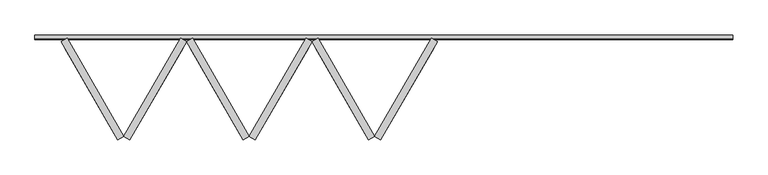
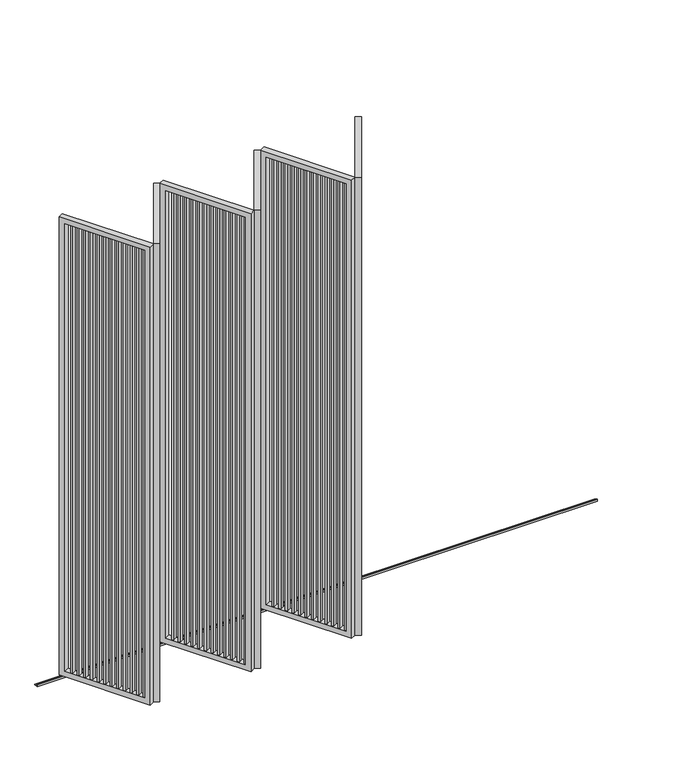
"""IFC4 building model written with IfcOpenShell, lengths in millimetres: proxy geometry, Renson_Amani_Loggia_Linea_Folding : Renson_Amani_Loggia_Linea_Folding."""

from ifc_helpers import new_model, si_unit, frame, origin, place, context, project, spatial, polyline, outline, extrude, source, transform, mapped, element, save


def generic_models_9688aaa0(model_context):
    return source(origin(), model_context, "Body", "SweptSolid", [
        extrude(outline(polyline([(2107.7211432, 547.0745344), (2133.7019053, 532.0745344), (2126.2019053, 519.0841534), (2100.2211432, 534.0841534), (2107.7211432, 547.0745344)])), frame((0.0, 0.0, 85.0), z_axis=(0.0, 0.0, 1.0), x_axis=(1.0, 0.0, 0.0)), (0.0, 0.0, 1.0), 3375.0),
        extrude(outline(polyline([(2084.2211432, 506.3713404), (2110.2019053, 491.3713404), (2102.7019053, 478.3809594), (2076.7211432, 493.3809594), (2084.2211432, 506.3713404)])), frame((0.0, 0.0, 85.0), z_axis=(0.0, 0.0, 1.0), x_axis=(1.0, 0.0, 0.0)), (0.0, 0.0, 1.0), 3375.0),
        extrude(outline(polyline([(2060.7211432, 465.6681465), (2086.7019053, 450.6681465), (2079.2019053, 437.6777654), (2053.2211432, 452.6777654), (2060.7211432, 465.6681465)])), frame((0.0, 0.0, 85.0), z_axis=(0.0, 0.0, 1.0), x_axis=(1.0, 0.0, 0.0)), (0.0, 0.0, 1.0), 3375.0),
        extrude(outline(polyline([(2037.2211432, 424.9649525), (2063.2019053, 409.9649525), (2055.7019053, 396.9745714), (2029.7211432, 411.9745714), (2037.2211432, 424.9649525)])), frame((0.0, 0.0, 85.0), z_axis=(0.0, 0.0, 1.0), x_axis=(1.0, 0.0, 0.0)), (0.0, 0.0, 1.0), 3375.0),
        extrude(outline(polyline([(2013.7211432, 384.2617585), (2039.7019053, 369.2617585), (2032.2019053, 356.2713774), (2006.2211432, 371.2713774), (2013.7211432, 384.2617585)])), frame((0.0, 0.0, 85.0), z_axis=(0.0, 0.0, 1.0), x_axis=(1.0, 0.0, 0.0)), (0.0, 0.0, 1.0), 3375.0),
        extrude(outline(polyline([(1990.2211432, 343.5585645), (2016.2019053, 328.5585645), (2008.7019053, 315.5681835), (1982.7211432, 330.5681835), (1990.2211432, 343.5585645)])), frame((0.0, 0.0, 85.0), z_axis=(0.0, 0.0, 1.0), x_axis=(1.0, 0.0, 0.0)), (0.0, 0.0, 1.0), 3375.0),
        extrude(outline(polyline([(1966.7211432, 302.8553705), (1992.7019053, 287.8553705), (1985.2019053, 274.8649895), (1959.2211432, 289.8649895), (1966.7211432, 302.8553705)])), frame((0.0, 0.0, 85.0), z_axis=(0.0, 0.0, 1.0), x_axis=(1.0, 0.0, 0.0)), (0.0, 0.0, 1.0), 3375.0),
        extrude(outline(polyline([(1943.2211432, 262.1521766), (1969.2019053, 247.1521766), (1961.7019053, 234.1617955), (1935.7211432, 249.1617955), (1943.2211432, 262.1521766)])), frame((0.0, 0.0, 85.0), z_axis=(0.0, 0.0, 1.0), x_axis=(1.0, 0.0, 0.0)), (0.0, 0.0, 1.0), 3375.0),
        extrude(outline(polyline([(1919.7211432, 221.4489826), (1945.7019053, 206.4489826), (1938.2019053, 193.4586015), (1912.2211432, 208.4586015), (1919.7211432, 221.4489826)])), frame((0.0, 0.0, 85.0), z_axis=(0.0, 0.0, 1.0), x_axis=(1.0, 0.0, 0.0)), (0.0, 0.0, 1.0), 3375.0),
        extrude(outline(polyline([(1896.2211432, 180.7457886), (1922.2019053, 165.7457886), (1914.7019053, 152.7554076), (1888.7211432, 167.7554076), (1896.2211432, 180.7457886)])), frame((0.0, 0.0, 85.0), z_axis=(0.0, 0.0, 1.0), x_axis=(1.0, 0.0, 0.0)), (0.0, 0.0, 1.0), 3375.0),
        extrude(outline(polyline([(1872.7211432, 140.0425946), (1898.7019053, 125.0425946), (1891.2019053, 112.0522136), (1865.2211432, 127.0522136), (1872.7211432, 140.0425946)])), frame((0.0, 0.0, 85.0), z_axis=(0.0, 0.0, 1.0), x_axis=(1.0, 0.0, 0.0)), (0.0, 0.0, 1.0), 3375.0),
        extrude(outline(polyline([(1849.2211432, 99.3394007), (1875.2019053, 84.3394007), (1867.7019053, 71.3490196), (1841.7211432, 86.3490196), (1849.2211432, 99.3394007)])), frame((0.0, 0.0, 85.0), z_axis=(0.0, 0.0, 1.0), x_axis=(1.0, 0.0, 0.0)), (0.0, 0.0, 1.0), 3375.0),
        extrude(outline(polyline([(3415.0, -40.0), (-40.0, -40.0), (-40.0, 610.0), (3415.0, 610.0), (3415.0, -40.0)]), holes=[polyline([(3375.0, 570.0), (0.0, 570.0), (0.0, 0.0), (3375.0, 0.0), (3375.0, 570.0)])]), frame((1852.2820323, 34.6410162, 85.0), z_axis=(-0.8660254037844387, 0.49999999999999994, 0.0), x_axis=(0.0, 0.0, 1.0)), (0.0, 0.0, 1.0), 40.0),
        extrude(outline(polyline([(1774.3429214, 50.841978), (1748.3621593, 35.841978), (1740.8621593, 48.8323591), (1766.8429214, 63.8323591), (1774.3429214, 50.841978)])), frame((0.0, 0.0, 85.0), z_axis=(0.0, 0.0, 1.0), x_axis=(1.0, 0.0, 0.0)), (0.0, 0.0, 1.0), 3375.0),
        extrude(outline(polyline([(1750.8429214, 91.545172), (1724.8621593, 76.545172), (1717.3621593, 89.5355531), (1743.3429214, 104.5355531), (1750.8429214, 91.545172)])), frame((0.0, 0.0, 85.0), z_axis=(0.0, 0.0, 1.0), x_axis=(1.0, 0.0, 0.0)), (0.0, 0.0, 1.0), 3375.0),
        extrude(outline(polyline([(1727.3429214, 132.248366), (1701.3621593, 117.248366), (1693.8621593, 130.2387471), (1719.8429214, 145.2387471), (1727.3429214, 132.248366)])), frame((0.0, 0.0, 85.0), z_axis=(0.0, 0.0, 1.0), x_axis=(1.0, 0.0, 0.0)), (0.0, 0.0, 1.0), 3375.0),
        extrude(outline(polyline([(1703.8429214, 172.95156), (1677.8621593, 157.95156), (1670.3621593, 170.941941), (1696.3429214, 185.941941), (1703.8429214, 172.95156)])), frame((0.0, 0.0, 85.0), z_axis=(0.0, 0.0, 1.0), x_axis=(1.0, 0.0, 0.0)), (0.0, 0.0, 1.0), 3375.0),
        extrude(outline(polyline([(1680.3429214, 213.654754), (1654.3621593, 198.654754), (1646.8621593, 211.645135), (1672.8429214, 226.645135), (1680.3429214, 213.654754)])), frame((0.0, 0.0, 85.0), z_axis=(0.0, 0.0, 1.0), x_axis=(1.0, 0.0, 0.0)), (0.0, 0.0, 1.0), 3375.0),
        extrude(outline(polyline([(1656.8429214, 254.3579479), (1630.8621593, 239.3579479), (1623.3621593, 252.348329), (1649.3429214, 267.348329), (1656.8429214, 254.3579479)])), frame((0.0, 0.0, 85.0), z_axis=(0.0, 0.0, 1.0), x_axis=(1.0, 0.0, 0.0)), (0.0, 0.0, 1.0), 3375.0),
        extrude(outline(polyline([(1633.3429214, 295.0611419), (1607.3621593, 280.0611419), (1599.8621593, 293.051523), (1625.8429214, 308.051523), (1633.3429214, 295.0611419)])), frame((0.0, 0.0, 85.0), z_axis=(0.0, 0.0, 1.0), x_axis=(1.0, 0.0, 0.0)), (0.0, 0.0, 1.0), 3375.0),
        extrude(outline(polyline([(1609.8429214, 335.7643359), (1583.8621593, 320.7643359), (1576.3621593, 333.7547169), (1602.3429214, 348.7547169), (1609.8429214, 335.7643359)])), frame((0.0, 0.0, 85.0), z_axis=(0.0, 0.0, 1.0), x_axis=(1.0, 0.0, 0.0)), (0.0, 0.0, 1.0), 3375.0),
        extrude(outline(polyline([(1586.3429214, 376.4675299), (1560.3621593, 361.4675299), (1552.8621593, 374.4579109), (1578.8429214, 389.4579109), (1586.3429214, 376.4675299)])), frame((0.0, 0.0, 85.0), z_axis=(0.0, 0.0, 1.0), x_axis=(1.0, 0.0, 0.0)), (0.0, 0.0, 1.0), 3375.0),
        extrude(outline(polyline([(1562.8429214, 417.1707238), (1536.8621593, 402.1707238), (1529.3621593, 415.1611049), (1555.3429214, 430.1611049), (1562.8429214, 417.1707238)])), frame((0.0, 0.0, 85.0), z_axis=(0.0, 0.0, 1.0), x_axis=(1.0, 0.0, 0.0)), (0.0, 0.0, 1.0), 3375.0),
        extrude(outline(polyline([(1539.3429214, 457.8739178), (1513.3621593, 442.8739178), (1505.8621593, 455.8642989), (1531.8429214, 470.8642989), (1539.3429214, 457.8739178)])), frame((0.0, 0.0, 85.0), z_axis=(0.0, 0.0, 1.0), x_axis=(1.0, 0.0, 0.0)), (0.0, 0.0, 1.0), 3375.0),
        extrude(outline(polyline([(1515.8429214, 498.5771118), (1489.8621593, 483.5771118), (1482.3621593, 496.5674929), (1508.3429214, 511.5674929), (1515.8429214, 498.5771118)])), frame((0.0, 0.0, 85.0), z_axis=(0.0, 0.0, 1.0), x_axis=(1.0, 0.0, 0.0)), (0.0, 0.0, 1.0), 3375.0),
        extrude(outline(polyline([(3415.0, -40.0), (-40.0, -40.0), (-40.0, 610.0), (3415.0, 610.0), (3415.0, -40.0)]), holes=[polyline([(3375.0, 570.0), (0.0, 570.0), (0.0, 0.0), (3375.0, 0.0), (3375.0, 570.0)])]), frame((1458.2820323, 528.2754963, 85.0), z_axis=(0.866025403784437, 0.500000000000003, 0.0), x_axis=(0.0, 0.0, 1.0)), (0.0, 0.0, 1.0), 40.0),
        extrude(outline(polyline([(1388.7211432, 547.0745344), (1414.7019053, 532.0745344), (1407.2019053, 519.0841534), (1381.2211432, 534.0841534), (1388.7211432, 547.0745344)])), frame((0.0, 0.0, 85.0), z_axis=(0.0, 0.0, 1.0), x_axis=(1.0, 0.0, 0.0)), (0.0, 0.0, 1.0), 3375.0),
        extrude(outline(polyline([(1365.2211432, 506.3713404), (1391.2019053, 491.3713404), (1383.7019053, 478.3809594), (1357.7211432, 493.3809594), (1365.2211432, 506.3713404)])), frame((0.0, 0.0, 85.0), z_axis=(0.0, 0.0, 1.0), x_axis=(1.0, 0.0, 0.0)), (0.0, 0.0, 1.0), 3375.0),
        extrude(outline(polyline([(1341.7211432, 465.6681465), (1367.7019053, 450.6681465), (1360.2019053, 437.6777654), (1334.2211432, 452.6777654), (1341.7211432, 465.6681465)])), frame((0.0, 0.0, 85.0), z_axis=(0.0, 0.0, 1.0), x_axis=(1.0, 0.0, 0.0)), (0.0, 0.0, 1.0), 3375.0),
        extrude(outline(polyline([(1318.2211432, 424.9649525), (1344.2019053, 409.9649525), (1336.7019053, 396.9745714), (1310.7211432, 411.9745714), (1318.2211432, 424.9649525)])), frame((0.0, 0.0, 85.0), z_axis=(0.0, 0.0, 1.0), x_axis=(1.0, 0.0, 0.0)), (0.0, 0.0, 1.0), 3375.0),
        extrude(outline(polyline([(1294.7211432, 384.2617585), (1320.7019053, 369.2617585), (1313.2019053, 356.2713774), (1287.2211432, 371.2713774), (1294.7211432, 384.2617585)])), frame((0.0, 0.0, 85.0), z_axis=(0.0, 0.0, 1.0), x_axis=(1.0, 0.0, 0.0)), (0.0, 0.0, 1.0), 3375.0),
        extrude(outline(polyline([(1271.2211432, 343.5585645), (1297.2019053, 328.5585645), (1289.7019053, 315.5681835), (1263.7211432, 330.5681835), (1271.2211432, 343.5585645)])), frame((0.0, 0.0, 85.0), z_axis=(0.0, 0.0, 1.0), x_axis=(1.0, 0.0, 0.0)), (0.0, 0.0, 1.0), 3375.0),
        extrude(outline(polyline([(1247.7211432, 302.8553705), (1273.7019053, 287.8553705), (1266.2019053, 274.8649895), (1240.2211432, 289.8649895), (1247.7211432, 302.8553705)])), frame((0.0, 0.0, 85.0), z_axis=(0.0, 0.0, 1.0), x_axis=(1.0, 0.0, 0.0)), (0.0, 0.0, 1.0), 3375.0),
        extrude(outline(polyline([(1224.2211432, 262.1521766), (1250.2019053, 247.1521766), (1242.7019053, 234.1617955), (1216.7211432, 249.1617955), (1224.2211432, 262.1521766)])), frame((0.0, 0.0, 85.0), z_axis=(0.0, 0.0, 1.0), x_axis=(1.0, 0.0, 0.0)), (0.0, 0.0, 1.0), 3375.0),
        extrude(outline(polyline([(1200.7211432, 221.4489826), (1226.7019053, 206.4489826), (1219.2019053, 193.4586015), (1193.2211432, 208.4586015), (1200.7211432, 221.4489826)])), frame((0.0, 0.0, 85.0), z_axis=(0.0, 0.0, 1.0), x_axis=(1.0, 0.0, 0.0)), (0.0, 0.0, 1.0), 3375.0),
        extrude(outline(polyline([(1177.2211432, 180.7457886), (1203.2019053, 165.7457886), (1195.7019053, 152.7554076), (1169.7211432, 167.7554076), (1177.2211432, 180.7457886)])), frame((0.0, 0.0, 85.0), z_axis=(0.0, 0.0, 1.0), x_axis=(1.0, 0.0, 0.0)), (0.0, 0.0, 1.0), 3375.0),
        extrude(outline(polyline([(1153.7211432, 140.0425946), (1179.7019053, 125.0425946), (1172.2019053, 112.0522136), (1146.2211432, 127.0522136), (1153.7211432, 140.0425946)])), frame((0.0, 0.0, 85.0), z_axis=(0.0, 0.0, 1.0), x_axis=(1.0, 0.0, 0.0)), (0.0, 0.0, 1.0), 3375.0),
        extrude(outline(polyline([(1130.2211432, 99.3394007), (1156.2019053, 84.3394007), (1148.7019053, 71.3490196), (1122.7211432, 86.3490196), (1130.2211432, 99.3394007)])), frame((0.0, 0.0, 85.0), z_axis=(0.0, 0.0, 1.0), x_axis=(1.0, 0.0, 0.0)), (0.0, 0.0, 1.0), 3375.0),
        extrude(outline(polyline([(3415.0, -40.0), (-40.0, -40.0), (-40.0, 610.0), (3415.0, 610.0), (3415.0, -40.0)]), holes=[polyline([(3375.0, 570.0), (0.0, 570.0), (0.0, 0.0), (3375.0, 0.0), (3375.0, 570.0)])]), frame((1133.2820323, 34.6410162, 85.0), z_axis=(-0.8660254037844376, 0.5000000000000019, 0.0), x_axis=(0.0, 0.0, 1.0)), (0.0, 0.0, 1.0), 40.0),
        extrude(outline(polyline([(1055.3429214, 50.841978), (1029.3621593, 35.841978), (1021.8621593, 48.8323591), (1047.8429214, 63.8323591), (1055.3429214, 50.841978)])), frame((0.0, 0.0, 85.0), z_axis=(0.0, 0.0, 1.0), x_axis=(1.0, 0.0, 0.0)), (0.0, 0.0, 1.0), 3375.0),
        extrude(outline(polyline([(1031.8429214, 91.545172), (1005.8621593, 76.545172), (998.3621593, 89.5355531), (1024.3429214, 104.5355531), (1031.8429214, 91.545172)])), frame((0.0, 0.0, 85.0), z_axis=(0.0, 0.0, 1.0), x_axis=(1.0, 0.0, 0.0)), (0.0, 0.0, 1.0), 3375.0),
        extrude(outline(polyline([(1008.3429214, 132.248366), (982.3621593, 117.248366), (974.8621593, 130.2387471), (1000.8429214, 145.2387471), (1008.3429214, 132.248366)])), frame((0.0, 0.0, 85.0), z_axis=(0.0, 0.0, 1.0), x_axis=(1.0, 0.0, 0.0)), (0.0, 0.0, 1.0), 3375.0),
        extrude(outline(polyline([(984.8429214, 172.95156), (958.8621593, 157.95156), (951.3621593, 170.941941), (977.3429214, 185.941941), (984.8429214, 172.95156)])), frame((0.0, 0.0, 85.0), z_axis=(0.0, 0.0, 1.0), x_axis=(1.0, 0.0, 0.0)), (0.0, 0.0, 1.0), 3375.0),
        extrude(outline(polyline([(961.3429214, 213.654754), (935.3621593, 198.654754), (927.8621593, 211.645135), (953.8429214, 226.645135), (961.3429214, 213.654754)])), frame((0.0, 0.0, 85.0), z_axis=(0.0, 0.0, 1.0), x_axis=(1.0, 0.0, 0.0)), (0.0, 0.0, 1.0), 3375.0),
        extrude(outline(polyline([(937.8429214, 254.3579479), (911.8621593, 239.3579479), (904.3621593, 252.348329), (930.3429214, 267.348329), (937.8429214, 254.3579479)])), frame((0.0, 0.0, 85.0), z_axis=(0.0, 0.0, 1.0), x_axis=(1.0, 0.0, 0.0)), (0.0, 0.0, 1.0), 3375.0),
        extrude(outline(polyline([(914.3429214, 295.0611419), (888.3621593, 280.0611419), (880.8621593, 293.051523), (906.8429214, 308.051523), (914.3429214, 295.0611419)])), frame((0.0, 0.0, 85.0), z_axis=(0.0, 0.0, 1.0), x_axis=(1.0, 0.0, 0.0)), (0.0, 0.0, 1.0), 3375.0),
        extrude(outline(polyline([(890.8429214, 335.7643359), (864.8621593, 320.7643359), (857.3621593, 333.7547169), (883.3429214, 348.7547169), (890.8429214, 335.7643359)])), frame((0.0, 0.0, 85.0), z_axis=(0.0, 0.0, 1.0), x_axis=(1.0, 0.0, 0.0)), (0.0, 0.0, 1.0), 3375.0),
        extrude(outline(polyline([(867.3429214, 376.4675299), (841.3621593, 361.4675299), (833.8621593, 374.4579109), (859.8429214, 389.4579109), (867.3429214, 376.4675299)])), frame((0.0, 0.0, 85.0), z_axis=(0.0, 0.0, 1.0), x_axis=(1.0, 0.0, 0.0)), (0.0, 0.0, 1.0), 3375.0),
        extrude(outline(polyline([(843.8429214, 417.1707238), (817.8621593, 402.1707238), (810.3621593, 415.1611049), (836.3429214, 430.1611049), (843.8429214, 417.1707238)])), frame((0.0, 0.0, 85.0), z_axis=(0.0, 0.0, 1.0), x_axis=(1.0, 0.0, 0.0)), (0.0, 0.0, 1.0), 3375.0),
        extrude(outline(polyline([(820.3429214, 457.8739178), (794.3621593, 442.8739178), (786.8621593, 455.8642989), (812.8429214, 470.8642989), (820.3429214, 457.8739178)])), frame((0.0, 0.0, 85.0), z_axis=(0.0, 0.0, 1.0), x_axis=(1.0, 0.0, 0.0)), (0.0, 0.0, 1.0), 3375.0),
        extrude(outline(polyline([(796.8429214, 498.5771118), (770.8621593, 483.5771118), (763.3621593, 496.5674929), (789.3429214, 511.5674929), (796.8429214, 498.5771118)])), frame((0.0, 0.0, 85.0), z_axis=(0.0, 0.0, 1.0), x_axis=(1.0, 0.0, 0.0)), (0.0, 0.0, 1.0), 3375.0),
        extrude(outline(polyline([(3415.0, -40.0), (-40.0, -40.0), (-40.0, 610.0), (3415.0, 610.0), (3415.0, -40.0)]), holes=[polyline([(3375.0, 570.0), (0.0, 570.0), (0.0, 0.0), (3375.0, 0.0), (3375.0, 570.0)])]), frame((739.2820323, 528.2754963, 85.0), z_axis=(0.8660254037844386, 0.5000000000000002, 0.0), x_axis=(0.0, 0.0, 1.0)), (0.0, 0.0, 1.0), 40.0),
        extrude(outline(polyline([(669.7211432, 547.0745344), (695.7019053, 532.0745344), (688.2019053, 519.0841534), (662.2211432, 534.0841534), (669.7211432, 547.0745344)])), frame((0.0, 0.0, 85.0), z_axis=(0.0, 0.0, 1.0), x_axis=(1.0, 0.0, 0.0)), (0.0, 0.0, 1.0), 3375.0),
        extrude(outline(polyline([(646.2211432, 506.3713404), (672.2019053, 491.3713404), (664.7019053, 478.3809594), (638.7211432, 493.3809594), (646.2211432, 506.3713404)])), frame((0.0, 0.0, 85.0), z_axis=(0.0, 0.0, 1.0), x_axis=(1.0, 0.0, 0.0)), (0.0, 0.0, 1.0), 3375.0),
        extrude(outline(polyline([(622.7211432, 465.6681465), (648.7019053, 450.6681465), (641.2019053, 437.6777654), (615.2211432, 452.6777654), (622.7211432, 465.6681465)])), frame((0.0, 0.0, 85.0), z_axis=(0.0, 0.0, 1.0), x_axis=(1.0, 0.0, 0.0)), (0.0, 0.0, 1.0), 3375.0),
        extrude(outline(polyline([(599.2211432, 424.9649525), (625.2019053, 409.9649525), (617.7019053, 396.9745714), (591.7211432, 411.9745714), (599.2211432, 424.9649525)])), frame((0.0, 0.0, 85.0), z_axis=(0.0, 0.0, 1.0), x_axis=(1.0, 0.0, 0.0)), (0.0, 0.0, 1.0), 3375.0),
        extrude(outline(polyline([(575.7211432, 384.2617585), (601.7019053, 369.2617585), (594.2019053, 356.2713774), (568.2211432, 371.2713774), (575.7211432, 384.2617585)])), frame((0.0, 0.0, 85.0), z_axis=(0.0, 0.0, 1.0), x_axis=(1.0, 0.0, 0.0)), (0.0, 0.0, 1.0), 3375.0),
        extrude(outline(polyline([(552.2211432, 343.5585645), (578.2019053, 328.5585645), (570.7019053, 315.5681835), (544.7211432, 330.5681835), (552.2211432, 343.5585645)])), frame((0.0, 0.0, 85.0), z_axis=(0.0, 0.0, 1.0), x_axis=(1.0, 0.0, 0.0)), (0.0, 0.0, 1.0), 3375.0),
        extrude(outline(polyline([(528.7211432, 302.8553705), (554.7019053, 287.8553705), (547.2019053, 274.8649895), (521.2211432, 289.8649895), (528.7211432, 302.8553705)])), frame((0.0, 0.0, 85.0), z_axis=(0.0, 0.0, 1.0), x_axis=(1.0, 0.0, 0.0)), (0.0, 0.0, 1.0), 3375.0),
        extrude(outline(polyline([(505.2211432, 262.1521766), (531.2019053, 247.1521766), (523.7019053, 234.1617955), (497.7211432, 249.1617955), (505.2211432, 262.1521766)])), frame((0.0, 0.0, 85.0), z_axis=(0.0, 0.0, 1.0), x_axis=(1.0, 0.0, 0.0)), (0.0, 0.0, 1.0), 3375.0),
        extrude(outline(polyline([(481.7211432, 221.4489826), (507.7019053, 206.4489826), (500.2019053, 193.4586015), (474.2211432, 208.4586015), (481.7211432, 221.4489826)])), frame((0.0, 0.0, 85.0), z_axis=(0.0, 0.0, 1.0), x_axis=(1.0, 0.0, 0.0)), (0.0, 0.0, 1.0), 3375.0),
        extrude(outline(polyline([(458.2211432, 180.7457886), (484.2019053, 165.7457886), (476.7019053, 152.7554076), (450.7211432, 167.7554076), (458.2211432, 180.7457886)])), frame((0.0, 0.0, 85.0), z_axis=(0.0, 0.0, 1.0), x_axis=(1.0, 0.0, 0.0)), (0.0, 0.0, 1.0), 3375.0),
        extrude(outline(polyline([(434.7211432, 140.0425946), (460.7019053, 125.0425946), (453.2019053, 112.0522136), (427.2211432, 127.0522136), (434.7211432, 140.0425946)])), frame((0.0, 0.0, 85.0), z_axis=(0.0, 0.0, 1.0), x_axis=(1.0, 0.0, 0.0)), (0.0, 0.0, 1.0), 3375.0),
        extrude(outline(polyline([(411.2211432, 99.3394007), (437.2019053, 84.3394007), (429.7019053, 71.3490196), (403.7211432, 86.3490196), (411.2211432, 99.3394007)])), frame((0.0, 0.0, 85.0), z_axis=(0.0, 0.0, 1.0), x_axis=(1.0, 0.0, 0.0)), (0.0, 0.0, 1.0), 3375.0),
        extrude(outline(polyline([(3415.0, -40.0), (-40.0, -40.0), (-40.0, 610.0), (3415.0, 610.0), (3415.0, -40.0)]), holes=[polyline([(3375.0, 570.0), (0.0, 570.0), (0.0, 0.0), (3375.0, 0.0), (3375.0, 570.0)])]), frame((414.2820323, 34.6410162, 85.0), z_axis=(-0.8660254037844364, 0.5000000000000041, 0.0), x_axis=(0.0, 0.0, 1.0)), (0.0, 0.0, 1.0), 40.0),
        extrude(outline(polyline([(336.0608891, 50.841978), (310.080127, 35.841978), (302.580127, 48.8323591), (328.5608891, 63.8323591), (336.0608891, 50.841978)])), frame((0.0, 0.0, 85.0), z_axis=(0.0, 0.0, 1.0), x_axis=(1.0, 0.0, 0.0)), (0.0, 0.0, 1.0), 3375.0),
        extrude(outline(polyline([(312.5608891, 91.545172), (286.580127, 76.545172), (279.080127, 89.5355531), (305.0608891, 104.5355531), (312.5608891, 91.545172)])), frame((0.0, 0.0, 85.0), z_axis=(0.0, 0.0, 1.0), x_axis=(1.0, 0.0, 0.0)), (0.0, 0.0, 1.0), 3375.0),
        extrude(outline(polyline([(289.0608891, 132.248366), (263.080127, 117.248366), (255.580127, 130.2387471), (281.5608891, 145.2387471), (289.0608891, 132.248366)])), frame((0.0, 0.0, 85.0), z_axis=(0.0, 0.0, 1.0), x_axis=(1.0, 0.0, 0.0)), (0.0, 0.0, 1.0), 3375.0),
        extrude(outline(polyline([(265.5608891, 172.95156), (239.580127, 157.95156), (232.080127, 170.941941), (258.0608891, 185.941941), (265.5608891, 172.95156)])), frame((0.0, 0.0, 85.0), z_axis=(0.0, 0.0, 1.0), x_axis=(1.0, 0.0, 0.0)), (0.0, 0.0, 1.0), 3375.0),
        extrude(outline(polyline([(242.0608891, 213.654754), (216.080127, 198.654754), (208.580127, 211.645135), (234.5608891, 226.645135), (242.0608891, 213.654754)])), frame((0.0, 0.0, 85.0), z_axis=(0.0, 0.0, 1.0), x_axis=(1.0, 0.0, 0.0)), (0.0, 0.0, 1.0), 3375.0),
        extrude(outline(polyline([(218.5608891, 254.3579479), (192.580127, 239.3579479), (185.080127, 252.348329), (211.0608891, 267.348329), (218.5608891, 254.3579479)])), frame((0.0, 0.0, 85.0), z_axis=(0.0, 0.0, 1.0), x_axis=(1.0, 0.0, 0.0)), (0.0, 0.0, 1.0), 3375.0),
        extrude(outline(polyline([(195.0608891, 295.0611419), (169.080127, 280.0611419), (161.580127, 293.051523), (187.5608891, 308.051523), (195.0608891, 295.0611419)])), frame((0.0, 0.0, 85.0), z_axis=(0.0, 0.0, 1.0), x_axis=(1.0, 0.0, 0.0)), (0.0, 0.0, 1.0), 3375.0),
        extrude(outline(polyline([(171.5608891, 335.7643359), (145.580127, 320.7643359), (138.080127, 333.7547169), (164.0608891, 348.7547169), (171.5608891, 335.7643359)])), frame((0.0, 0.0, 85.0), z_axis=(0.0, 0.0, 1.0), x_axis=(1.0, 0.0, 0.0)), (0.0, 0.0, 1.0), 3375.0),
        extrude(outline(polyline([(148.0608891, 376.4675299), (122.080127, 361.4675299), (114.580127, 374.4579109), (140.5608891, 389.4579109), (148.0608891, 376.4675299)])), frame((0.0, 0.0, 85.0), z_axis=(0.0, 0.0, 1.0), x_axis=(1.0, 0.0, 0.0)), (0.0, 0.0, 1.0), 3375.0),
        extrude(outline(polyline([(124.5608891, 417.1707238), (98.580127, 402.1707238), (91.080127, 415.1611049), (117.0608891, 430.1611049), (124.5608891, 417.1707238)])), frame((0.0, 0.0, 85.0), z_axis=(0.0, 0.0, 1.0), x_axis=(1.0, 0.0, 0.0)), (0.0, 0.0, 1.0), 3375.0),
        extrude(outline(polyline([(101.0608891, 457.8739178), (75.080127, 442.8739178), (67.580127, 455.8642989), (93.5608891, 470.8642989), (101.0608891, 457.8739178)])), frame((0.0, 0.0, 85.0), z_axis=(0.0, 0.0, 1.0), x_axis=(1.0, 0.0, 0.0)), (0.0, 0.0, 1.0), 3375.0),
        extrude(outline(polyline([(77.5608891, 498.5771118), (51.580127, 483.5771118), (44.080127, 496.5674929), (70.0608891, 511.5674929), (77.5608891, 498.5771118)])), frame((0.0, 0.0, 85.0), z_axis=(0.0, 0.0, 1.0), x_axis=(1.0, 0.0, 0.0)), (0.0, 0.0, 1.0), 3375.0),
        extrude(outline(polyline([(3415.0, -40.0), (-40.0, -40.0), (-40.0, 610.0), (3415.0, 610.0), (3415.0, -40.0)]), holes=[polyline([(3375.0, 570.0), (0.0, 570.0), (0.0, 0.0), (3375.0, 0.0), (3375.0, 570.0)])]), frame((20.0, 528.2754963, 85.0), z_axis=(0.8660254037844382, 0.5000000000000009, 0.0), x_axis=(0.0, 0.0, 1.0)), (0.0, 0.0, 1.0), 40.0),
        extrude(outline(polyline([(576.9165125, 15.0), (579.9165125, 15.0), (579.9165125, 3.0), (602.9165125, 3.0), (602.9165125, 0.0), (576.9165125, 0.0), (576.9165125, 15.0)])), frame((-150.0, 0.0, 0.0), z_axis=(1.0, 0.0, 0.0), x_axis=(0.0, 1.0, 0.0)), (0.0, 0.0, 1.0), 4000.0),
    ])


if __name__ == "__main__":
    model = new_model("IFC4")
    model_context = context("Model", 3, world=origin())
    ifc_project = project(units=[si_unit("LENGTHUNIT", "METRE", prefix="MILLI")], contexts=[model_context])
    site = spatial("IfcSite", under=ifc_project)
    building = spatial("IfcBuilding", under=site)
    placement = place(None, origin())
    generic_models_shape = generic_models_9688aaa0(model_context)
    element("IfcBuildingElementProxy", 1, Name="Renson_Amani_Loggia_Linea_Folding : Renson_Amani_Loggia_Linea_Folding", ObjectType="Renson_Amani_Loggia_Linea_Folding : Renson_Amani_Loggia_Linea_Folding", at=placement, inside=building, context=model_context, shape_type="MappedRepresentation", body=[
        mapped(generic_models_shape, transform((0.0, 0.0, 0.0), x_axis=(1.0, 0.0, 0.0), y_axis=(0.0, 1.0, 0.0), z_axis=(0.0, 0.0, 1.0))),
    ])
    save(model, "model.ifc")
